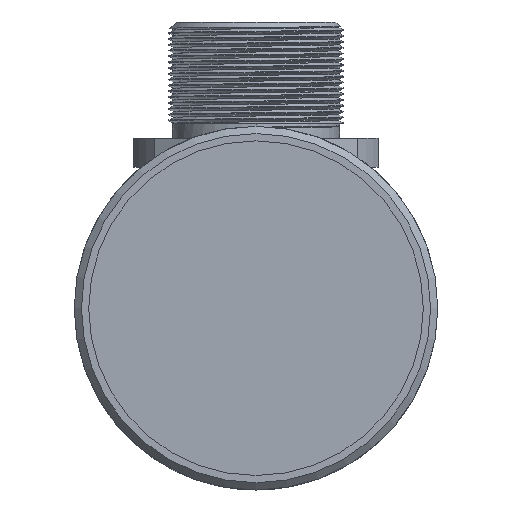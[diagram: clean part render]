
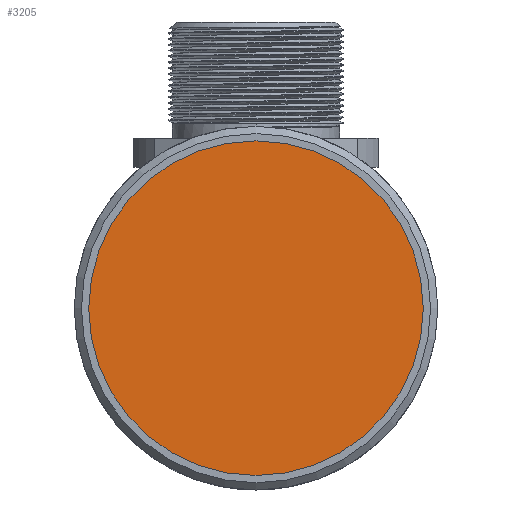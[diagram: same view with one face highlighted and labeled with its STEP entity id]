
A CAD part, left-side view. The second image highlights one B-rep face of the part: STEP entity #3205.
In plain terms, the highlighted planar face has unit normal (-1, 0, 0).
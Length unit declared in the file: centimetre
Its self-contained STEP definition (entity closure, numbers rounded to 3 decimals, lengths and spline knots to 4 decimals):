
#842=CIRCLE('',#3407,1.15);
#935=VERTEX_POINT('',#4162);
#1476=EDGE_CURVE('',#935,#935,#842,.T.);
#1898=ORIENTED_EDGE('',*,*,#1476,.T.);
#2721=EDGE_LOOP('',(#1898));
#2964=FACE_BOUND('',#2721,.T.);
#3205=ADVANCED_FACE('',(#2964),#17969,.T.);
#3407=AXIS2_PLACEMENT_3D('',#4161,#3643,#3644);
#3409=AXIS2_PLACEMENT_3D('',#4165,#3647,$);
#3643=DIRECTION('',(-1.,0.,0.));
#3644=DIRECTION('',(0.,0.,1.15));
#3647=DIRECTION('',(-1.,0.,0.));
#4161=CARTESIAN_POINT('',(0.1,0.,0.));
#4162=CARTESIAN_POINT('',(0.1,0.,1.15));
#4165=CARTESIAN_POINT('',(0.1,0.,0.));
#17969=PLANE('',#3409);
